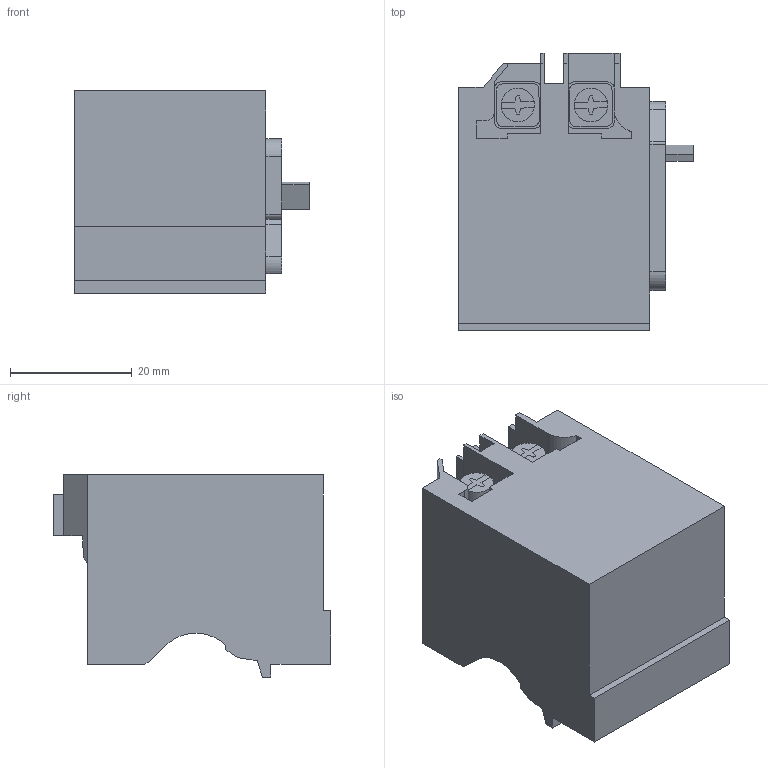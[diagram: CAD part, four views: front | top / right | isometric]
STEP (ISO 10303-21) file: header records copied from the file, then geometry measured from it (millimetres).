
FILE_DESCRIPTION (( 'STEP AP214' ), '1' );
FILE_NAME ('Ðàñöåïèòåëü íåçàâèñèìûé OptiMat D.STEP', '2023-04-03T03:13:42', ( '' ), ( '' ), 'SwSTEP 2.0', 'SolidWorks 2018', '' );
FILE_SCHEMA (( 'AUTOMOTIVE_DESIGN' ));
Length unit declared in the file: millimetre
Products named in the file (1): Ðàñöåïèòåëü íåçàâèñèìûé OptiMat D
Bounding box: 38.55 x 45.5 x 33.2 mm (x, y, z)
Volume: 37218.8 mm3; surface area: 8390.1 mm2
Topology: 1 solids, 1 shells, 163 faces, 465 edges, 309 vertices
Faces by surface type: plane 120, cylinder 43
Entity records: 5324 total; most frequent: CARTESIAN_POINT 941, ORIENTED_EDGE 930, DIRECTION 887, EDGE_CURVE 465, VECTOR 369, LINE 369, VERTEX_POINT 309, AXIS2_PLACEMENT_3D 259
